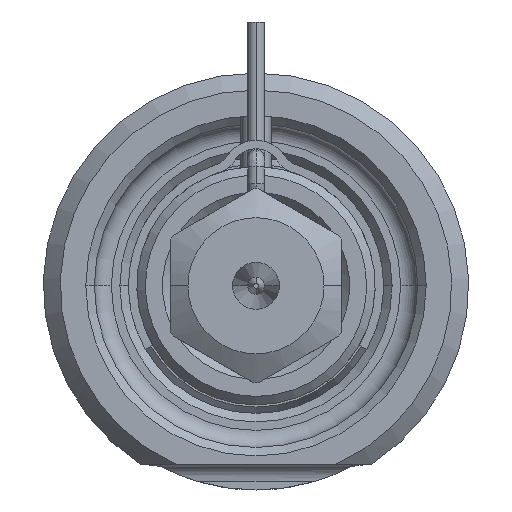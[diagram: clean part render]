
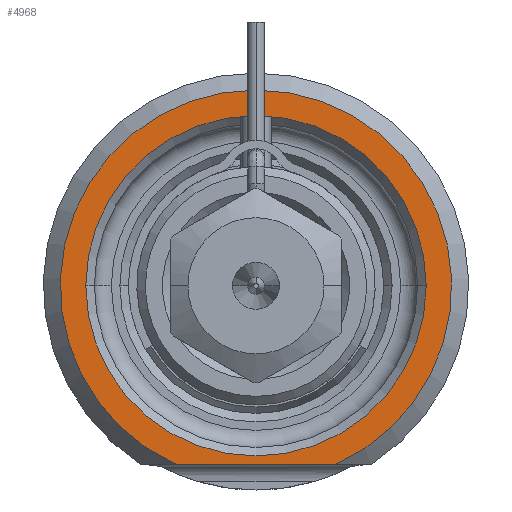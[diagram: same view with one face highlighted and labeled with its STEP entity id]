
A CAD part, front view. The second image highlights one B-rep face of the part: STEP entity #4968.
In plain terms, the highlighted planar face has unit normal (0, -1, 0).
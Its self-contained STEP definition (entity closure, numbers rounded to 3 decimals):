
#1187=CARTESIAN_POINT('',(0.,0.,0.));
#1188=DIRECTION('',(0.,-1.,0.));
#1189=DIRECTION('',(0.408,0.,-0.913));
#1190=AXIS2_PLACEMENT_3D('',#1187,#1188,#1189);
#1211=DIRECTION('',(1.,0.,0.));
#1212=VECTOR('',#1211,9.381);
#1213=CARTESIAN_POINT('',(-4.69,0.,-10.5));
#1214=LINE('',#1213,#1212);
#1215=CARTESIAN_POINT('',(0.,0.,0.));
#1216=DIRECTION('',(0.,1.,0.));
#1217=DIRECTION('',(-1.,0.,0.));
#1218=AXIS2_PLACEMENT_3D('',#1215,#1216,#1217);
#1220=CARTESIAN_POINT('',(0.,0.,0.));
#1221=DIRECTION('',(0.,1.,0.));
#1222=DIRECTION('',(1.,0.,0.));
#1223=AXIS2_PLACEMENT_3D('',#1220,#1221,#1222);
#3240=CARTESIAN_POINT('',(-10.,0.,0.));
#3241=CARTESIAN_POINT('',(10.,0.,0.));
#3242=VERTEX_POINT('',#3240);
#3243=VERTEX_POINT('',#3241);
#3284=CARTESIAN_POINT('',(-4.69,0.,-10.5));
#3285=CARTESIAN_POINT('',(4.69,0.,-10.5));
#3286=VERTEX_POINT('',#3284);
#3287=VERTEX_POINT('',#3285);
#4953=CARTESIAN_POINT('',(0.,0.,0.));
#4954=DIRECTION('',(0.,-1.,0.));
#4955=DIRECTION('',(1.,0.,0.));
#4956=AXIS2_PLACEMENT_3D('',#4953,#4954,#4955);
#4957=PLANE('',#4956);
#4958=ORIENTED_EDGE('',*,*,#4888,.F.);
#4959=ORIENTED_EDGE('',*,*,#4945,.F.);
#4960=EDGE_LOOP('',(#4958,#4959));
#4961=FACE_OUTER_BOUND('',#4960,.F.);
#4963=ORIENTED_EDGE('',*,*,#4962,.F.);
#4965=ORIENTED_EDGE('',*,*,#4964,.F.);
#4966=EDGE_LOOP('',(#4963,#4965));
#4967=FACE_BOUND('',#4966,.F.);
#4968=ADVANCED_FACE('',(#4961,#4967),#4957,.T.);
#1191=CIRCLE('',#1190,11.5);
#1219=CIRCLE('',#1218,10.);
#1224=CIRCLE('',#1223,10.);
#4888=EDGE_CURVE('',#3286,#3287,#1214,.T.);
#4945=EDGE_CURVE('',#3287,#3286,#1191,.T.);
#4962=EDGE_CURVE('',#3242,#3243,#1219,.T.);
#4964=EDGE_CURVE('',#3243,#3242,#1224,.T.);
